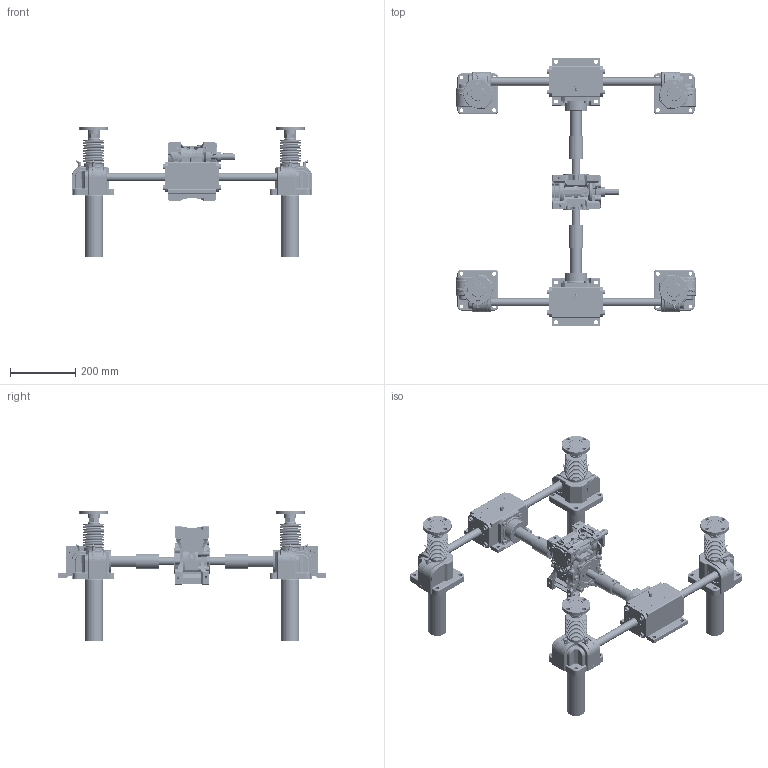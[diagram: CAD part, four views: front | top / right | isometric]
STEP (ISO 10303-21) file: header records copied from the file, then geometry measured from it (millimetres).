
FILE_DESCRIPTION(('STEP AP203'),'1');
FILE_NAME('SPMH1500FCJ-600x600-300-150ST_CAP-063.stp','2016-08-18T05:17:50',(' '),(' '),'Spatial InterOp 3D',' ',' ');
FILE_SCHEMA(('CONFIG_CONTROL_DESIGN'));
Length unit declared in the file: millimetre
Products named in the file (144): SPMH1500FCJ-600x600-300-150ST_CAP-063; Rack Gear(SP-1500FC); Flange.1-Part; Flange.1; Joint.1; Nut.1; Flange.2-Part; Flange.2; Joint.2; Nut.2; Flange.3-Part; Flange.3; Joint.3; Nut.3; Flange.4-Part; Flange.4; Joint.4; Nut.4; Bellow(SP-1500); Body.1-Part; Nipple; b6205zz; SnapRing-55Pie; Hole Cover.1(SP-1500); Gear Box.1(NSP-1500); RJ05-4SCJ-610X600-100ST_CAP; LABEL-B.1; ___; 파트18; __ ; Body.2-Part; Hole Cover.2(SP-1500); Gear Box.2(NSP-1500); Body.3-Part; Hole Cover.3(SP-1500); Gear Box.3(NSP-1500); Body.4-Part; Hole Cover.4(SP-1500); Gear Box.4(NSP-1500); Cap.1-Part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
Assembly tree (150 placements, depth 6):
  SPMH1500FCJ-600x600-300-150ST_CAP-063
    Rack Gear(SP-1500FC)  x4
    Flange.1-Part
      Flange.1
      Joint.1
      Nut.1
    Flange.2-Part
      Flange.2
      Joint.2
      Nut.2
    Flange.3-Part
      Flange.3
      Joint.3
      Nut.3
    Flange.4-Part
      Flange.4
      Joint.4
      Nut.4
    Bellow(SP-1500)  x4
    Body.1-Part
      Nipple
      Nipple
      b6205zz
      SnapRing-55Pie
      Hole Cover.1(SP-1500)
      Gear Box.1(NSP-1500)
      __ 
        ___
          RJ05-4SCJ-610X600-100ST_CAP
            LABEL-B.1
          파트18
    Body.2-Part
      Nipple
      Nipple
      b6205zz
      SnapRing-55Pie
      Hole Cover.2(SP-1500)
      Gear Box.2(NSP-1500)
      __ 
        ___
          RJ05-4SCJ-610X600-100ST_CAP
            LABEL-B.1
          파트18
    Body.3-Part
      Nipple
      Nipple
      b6205zz
      SnapRing-55Pie
      Hole Cover.3(SP-1500)
      Gear Box.3(NSP-1500)
      __ 
        ___
          RJ05-4SCJ-610X600-100ST_CAP
            LABEL-B.1
          파트18
    Body.4-Part
      Nipple
      Nipple
      b6205zz
      SnapRing-55Pie
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Bounding box: 735.36 x 821.5 x 400 mm (x, y, z)
Volume: 8607556.7 mm3; surface area: 2623941.7 mm2
Topology: 173 solids, 237 shells, 18676 faces, 51568 edges, 33709 vertices
Faces by surface type: plane 14326, cylinder 2665, torus 536, cone 435, bspline 226, revolution 210, extrusion 190, sphere 88
Full cylindrical faces by diameter (mm): 2.975 x8, 3.087 x8, 4.8 x10, 4.917 x1, 6 x14, 6.4 x1, 6.647 x16, 7.26 x12, 7.8 x1, 8 x60, 8.5 x14, 9.5 x24, 9.886 x10, 10 x8, 12 x40, 13 x8, 14 x3, 15 x24, 19 x1, 24 x1, 25 x27, 26 x4, 27 x5, 28 x8, 30 x4, 32.5 x8, 35 x66, 36 x4, 37 x7, 38 x4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
Entity records: 562442 total; most frequent: CARTESIAN_POINT 128893, ORIENTED_EDGE 91078, DIRECTION 81592, EDGE_CURVE 45671, VECTOR 38910, LINE 38720, VERTEX_POINT 30498, AXIS2_PLACEMENT_3D 21236
